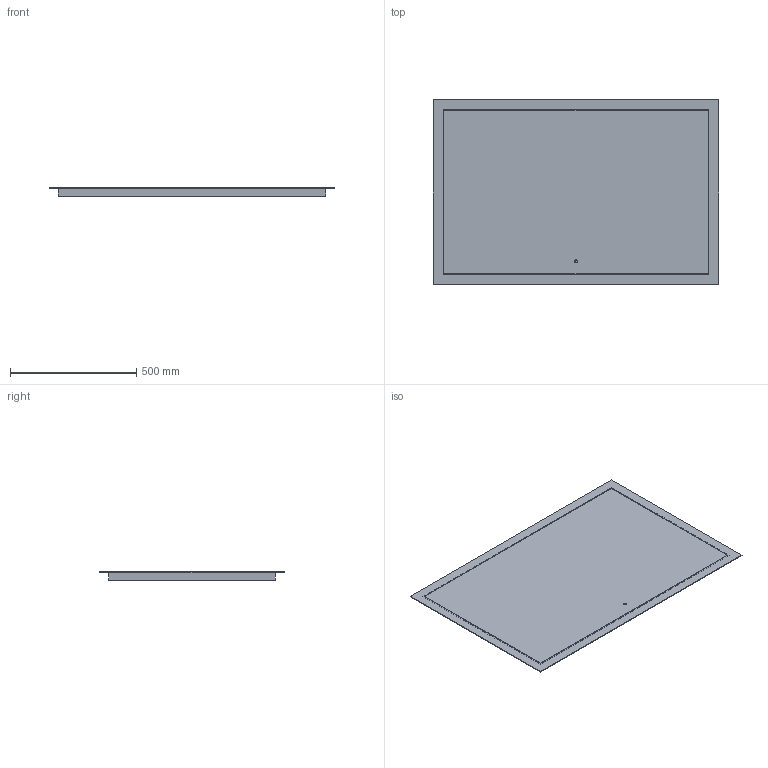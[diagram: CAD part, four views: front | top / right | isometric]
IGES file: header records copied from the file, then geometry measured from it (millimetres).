
Start section: SolidWorks IGES file using analytic representation for surfaces
Global section: file name: C:\Users\danielet\Desktop\3D CARLOS\AMANZI-A35962-3D\AMANZI-A35962-3D.IGS; native system: SolidWorks 2018; preprocessor: SolidWorks 2018; author: danielet; date: 220207.123346; units: millimetre
Bounding box: 1130 x 730 x 33 mm (x, y, z)
Surface area: 1873981.1 mm2 (no closed solid volume)
Topology: 0 solids, 0 shells, 32 faces, 248 edges, 248 vertices
Faces by surface type: bspline 28, revolution 4
